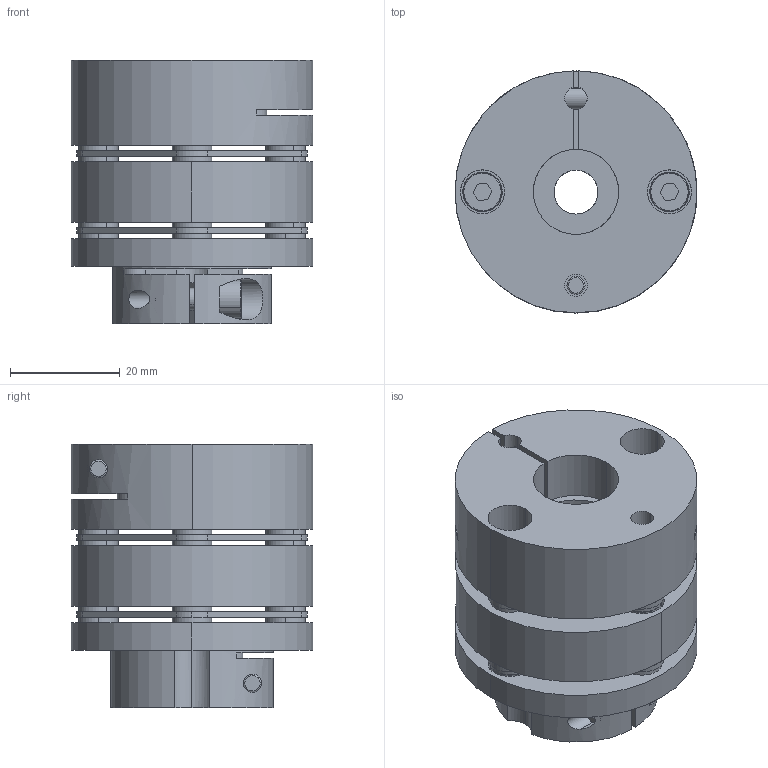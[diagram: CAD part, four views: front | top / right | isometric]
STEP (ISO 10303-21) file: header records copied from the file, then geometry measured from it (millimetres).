
FILE_DESCRIPTION (( 'STEP AP214' ), '1' );
FILE_NAME ('LC-A-040DA-8B-15.5B（B型）.STEP', '2019-09-19T01:48:01', ( 'admin' ), ( 'Microsoft' ), 'SwSTEP 2.0', 'SolidWorks 2016', '' );
FILE_SCHEMA (( 'AUTOMOTIVE_DESIGN' ));
Length unit declared in the file: millimetre
Products named in the file (1): LC-A-040DA-8B-15.5B（B型）
Bounding box: 44 x 44 x 48 mm (x, y, z)
Volume: 45192 mm3; surface area: 26480.6 mm2
Topology: 31 solids, 31 shells, 441 faces, 1018 edges, 658 vertices
Faces by surface type: cylinder 207, plane 174, torus 40, cone 20
Entity records: 18270 total; most frequent: CARTESIAN_POINT 2459, DIRECTION 2406, ORIENTED_EDGE 2036, EDGE_CURVE 1018, AXIS2_PLACEMENT_3D 963, VERTEX_POINT 658, EDGE_LOOP 552, CIRCLE 521
